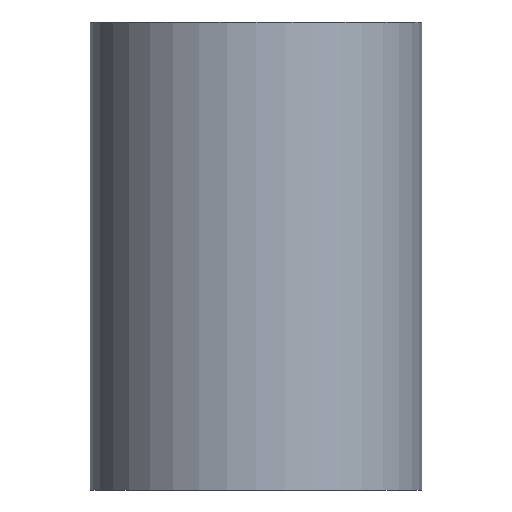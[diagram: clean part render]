
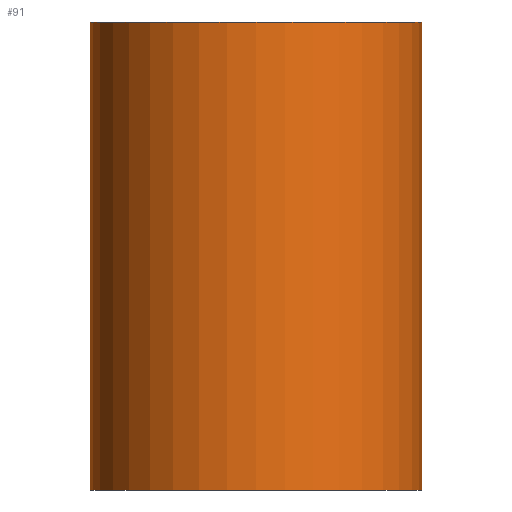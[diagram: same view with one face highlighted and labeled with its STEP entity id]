
A CAD part, front view. The second image highlights one B-rep face of the part: STEP entity #91.
In plain terms, the highlighted cylindrical face has radius 31.5 mm (diameter 63 mm), a partial arc.
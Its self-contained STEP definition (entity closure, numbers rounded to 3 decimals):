
#3 = ORIENTED_EDGE ( 'NONE', *, *, #182, .T. ) ;
#8 = ORIENTED_EDGE ( 'NONE', *, *, #68, .F. ) ;
#9 = CARTESIAN_POINT ( 'NONE',  ( -31.5, 0., 0. ) ) ;
#24 = ORIENTED_EDGE ( 'NONE', *, *, #153, .T. ) ;
#25 = VERTEX_POINT ( 'NONE', #9 ) ;
#28 = CARTESIAN_POINT ( 'NONE',  ( -31.5, 0., 89. ) ) ;
#33 = VERTEX_POINT ( 'NONE', #28 ) ;
#37 = DIRECTION ( 'NONE',  ( 0., 0., -1. ) ) ;
#51 = DIRECTION ( 'NONE',  ( 0., 0., 1. ) ) ;
#64 = CARTESIAN_POINT ( 'NONE',  ( 0., 0., 89. ) ) ;
#68 = EDGE_CURVE ( 'NONE', #33, #138, #203, .T. ) ;
#86 = DIRECTION ( 'NONE',  ( 0., 0., -1. ) ) ;
#90 = EDGE_LOOP ( 'NONE', ( #201, #8, #24, #3 ) ) ;
#91 = ADVANCED_FACE ( 'NONE', ( #140 ), #170, .T. ) ;
#92 = LINE ( 'NONE', #194, #128 ) ;
#106 = AXIS2_PLACEMENT_3D ( 'NONE', #135, #51, #162 ) ;
#109 = VERTEX_POINT ( 'NONE', #193 ) ;
#110 = DIRECTION ( 'NONE',  ( 0., 0., -1. ) ) ;
#113 = EDGE_CURVE ( 'NONE', #138, #109, #92, .T. ) ;
#117 = DIRECTION ( 'NONE',  ( 1., 0., 0. ) ) ;
#123 = VECTOR ( 'NONE', #110, 1000. ) ;
#124 = DIRECTION ( 'NONE',  ( 0., 0., 1. ) ) ;
#128 = VECTOR ( 'NONE', #86, 1000. ) ;
#131 = LINE ( 'NONE', #168, #123 ) ;
#135 = CARTESIAN_POINT ( 'NONE',  ( 0., 0., 89. ) ) ;
#136 = DIRECTION ( 'NONE',  ( -1., 0., 0. ) ) ;
#138 = VERTEX_POINT ( 'NONE', #190 ) ;
#140 = FACE_OUTER_BOUND ( 'NONE', #90, .T. ) ;
#153 = EDGE_CURVE ( 'NONE', #33, #25, #131, .T. ) ;
#158 = AXIS2_PLACEMENT_3D ( 'NONE', #191, #124, #117 ) ;
#162 = DIRECTION ( 'NONE',  ( 1., 0., 0. ) ) ;
#168 = CARTESIAN_POINT ( 'NONE',  ( -31.5, 0., 89. ) ) ;
#169 = AXIS2_PLACEMENT_3D ( 'NONE', #64, #37, #136 ) ;
#170 = CYLINDRICAL_SURFACE ( 'NONE', #169, 31.5 ) ;
#182 = EDGE_CURVE ( 'NONE', #25, #109, #185, .T. ) ;
#185 = CIRCLE ( 'NONE', #158, 31.5 ) ;
#190 = CARTESIAN_POINT ( 'NONE',  ( 31.5, 0., 89. ) ) ;
#191 = CARTESIAN_POINT ( 'NONE',  ( 0., 0., 0. ) ) ;
#193 = CARTESIAN_POINT ( 'NONE',  ( 31.5, 0., 0. ) ) ;
#194 = CARTESIAN_POINT ( 'NONE',  ( 31.5, 0., 89. ) ) ;
#201 = ORIENTED_EDGE ( 'NONE', *, *, #113, .F. ) ;
#203 = CIRCLE ( 'NONE', #106, 31.5 ) ;
